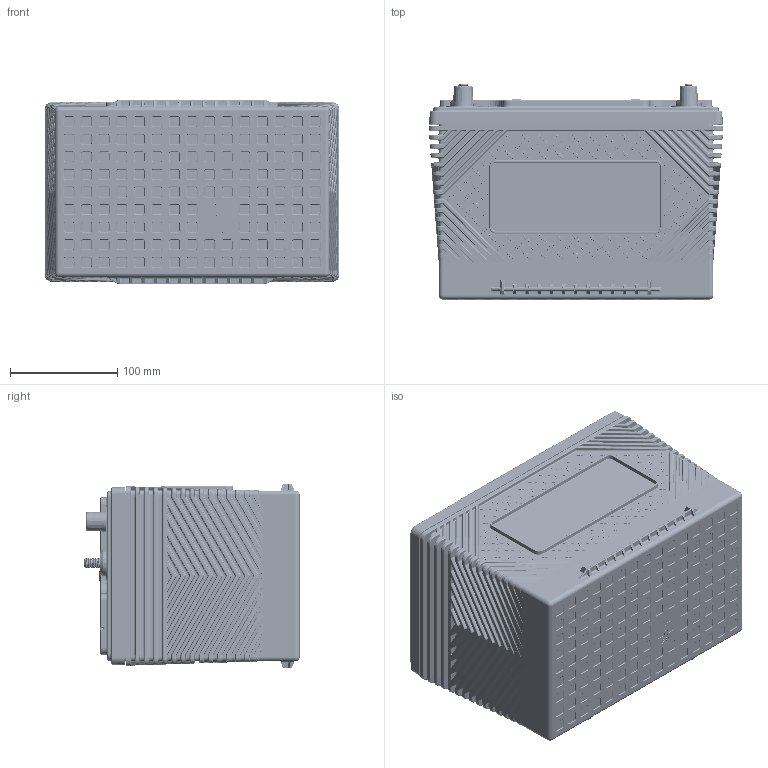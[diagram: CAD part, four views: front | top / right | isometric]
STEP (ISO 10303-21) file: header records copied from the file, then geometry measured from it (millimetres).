
FILE_DESCRIPTION (( 'STEP AP203' ), '1' );
FILE_NAME ('ODP-AGM34M.STEP', '2024-03-25T20:54:06', ( '' ), ( '' ), 'SwSTEP 2.0', 'SolidWorks 2022', '' );
FILE_SCHEMA (( 'CONFIG_CONTROL_DESIGN' ));
Products named in the file (1): ODP-AGM34M
Bounding box: 274.83 x 200.49 x 171.74 mm (x, y, z)
Volume: 1419076.3 mm3; surface area: 919737.6 mm2
Topology: 16 solids, 16 shells, 15776 faces, 37361 edges, 21499 vertices
Faces by surface type: cylinder 5734, plane 2959, torus 2892, bspline 2708, cone 1017, sphere 466
Full cylindrical faces by diameter (mm): 7.937 x1, 9.525 x8, 18.059 x6, 19.406 x12, 22.454 x12
Entity records: 511394 total; most frequent: CARTESIAN_POINT 171484, ORIENTED_EDGE 73310, DIRECTION 71467, EDGE_CURVE 36655, AXIS2_PLACEMENT_3D 28763, VERTEX_POINT 21425, EDGE_LOOP 16308, FACE_OUTER_BOUND 15852
